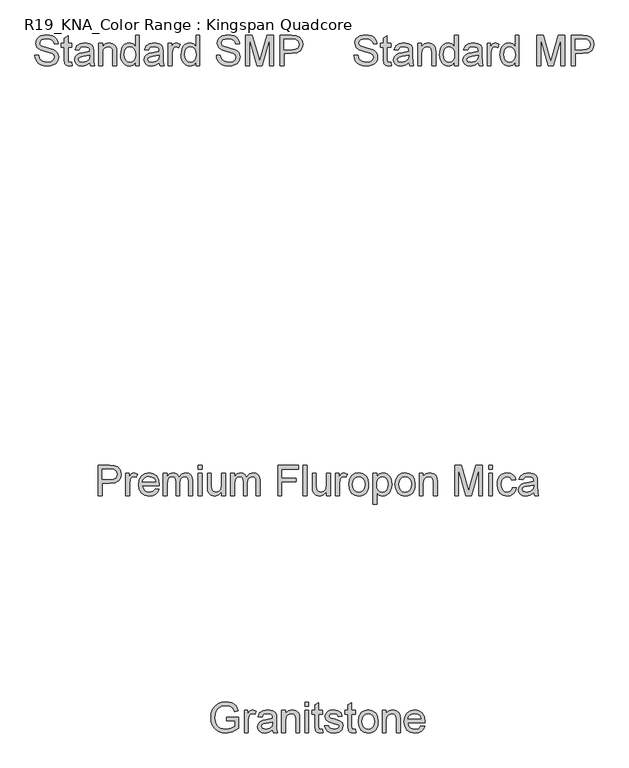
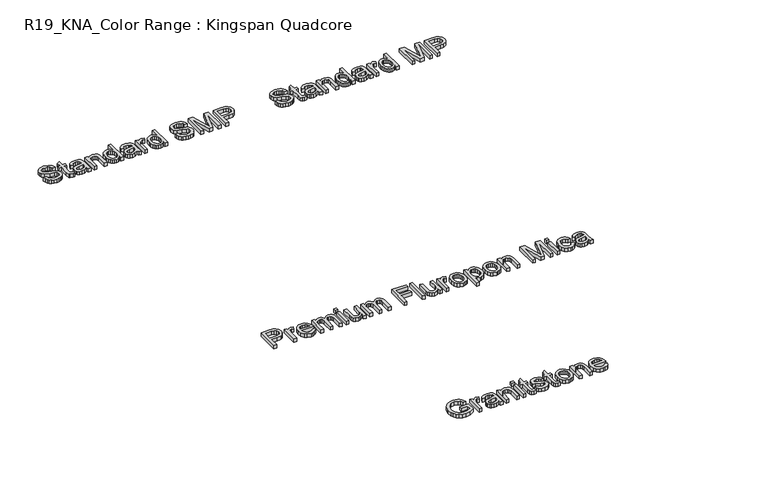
"""IFC4 building model written with IfcOpenShell, lengths in millimetres: proxy geometry, R19_KNA_Color Range : Kingspan Quadcore."""

from ifc_helpers import new_model, si_unit, origin, origin_with_axes, place, context, project, spatial, polyline, outline, extrude, source, transform, mapped, element, save


def r19_kna_color_range_kingspan_quadcore_c5814d20(model_context):
    return source(origin(), model_context, "Body", "SweptSolid", [
        extrude(outline(polyline([(181.9710286, 426.7977849), (200.8065868, 426.7977849), (206.8766397, 407.9438327), (221.7022841, 396.024456), (244.2902386, 391.4811134), (263.9719254, 394.92081), (276.6822483, 404.3753773), (280.8577089, 417.0121238), (277.730712, 428.7659536), (264.9284186, 437.31921), (237.5028158, 444.511303), (207.9802857, 453.8003234), (191.9590248, 467.8166274), (186.6799182, 486.5418209), (188.3123945, 497.5736823), (193.2098236, 507.8605826), (201.2434467, 516.5793858), (212.284505, 522.9069562), (240.2067485, 528.03891), (270.0051901, 522.6678329), (281.427926, 516.0367599), (289.8708178, 506.8856953), (295.2143038, 495.7848561), (297.3388223, 483.3044594), (278.5032642, 483.3044594), (275.0451734, 494.5432543), (267.8346863, 502.6550523), (256.5683002, 507.566277), (240.9425125, 509.2033518), (224.9488427, 507.5846711), (213.9767622, 502.7286287), (207.6307978, 495.582521), (205.5154763, 487.0936439), (207.0145955, 479.8555657), (211.5119529, 474.0338331), (242.2668877, 463.512408), (275.5969964, 454.0578408), (286.3345521, 447.2244327), (293.8255493, 438.790738), (298.2263376, 428.848727), (299.6932671, 417.4903704), (298.0056084, 405.879095), (292.9426325, 394.9575982), (284.7112728, 385.5582133), (273.5184631, 378.5132731), (260.0585806, 374.1124847), (245.0260026, 372.6455552), (226.572122, 374.2274478), (211.3831942, 378.9731255), (199.284475, 386.9009825), (190.1012207, 398.0294129), (184.2059118, 411.5858644), (181.9710286, 426.7977849)])), origin_with_axes(), (0.0, 0.0, 1.0), 25.0),
        extrude(outline(polyline([(365.6177206, 390.7085612), (367.9721654, 374.448177), (353.882285, 372.6455552), (338.1001474, 375.7725522), (330.2274727, 383.9763207), (327.9466043, 405.3502646), (327.9466043, 466.823346), (313.8199357, 466.823346), (313.8199357, 485.6589041), (327.9466043, 485.6589041), (327.9466043, 512.551078), (346.7821625, 523.6243261), (346.7821625, 485.6589041), (365.6177206, 485.6589041), (365.6177206, 466.823346), (346.7821625, 466.823346), (346.7821625, 405.9020876), (347.7754439, 396.1900029), (350.9944113, 392.7503063), (357.4139521, 391.4811134), (365.6177206, 390.7085612)])), origin_with_axes(), (0.0, 0.0, 1.0), 25.0),
        extrude(outline(polyline([(455.0866219, 389.1266686), (436.8212808, 376.3611634), (416.6429534, 372.6455552), (400.9022025, 374.8804384), (389.290927, 381.5850877), (382.1310237, 391.7662219), (379.7443892, 404.4305596), (383.3496328, 419.3297804), (392.8225942, 430.1455111), (406.0111637, 436.3259286), (422.3083361, 439.15862), (454.9762573, 445.6333431), (455.0866219, 449.8271978), (453.7898378, 458.2333014), (449.8994857, 463.7331372), (441.1990765, 467.8166274), (429.0773648, 469.1777908), (410.0210775, 465.5541531), (400.9343922, 452.6966774), (382.098834, 455.0511222), (390.2474202, 473.4452219), (406.6549572, 484.2241644), (431.505386, 488.0133489), (454.3324638, 484.6656228), (467.2267277, 476.2595192), (473.002475, 463.4756198), (473.92218, 446.9945065), (473.92218, 423.5604234), (474.8786732, 390.8373199), (478.6310696, 375.0), (459.7955114, 375.0), (455.0866219, 389.1266686)]), holes=[polyline([(455.0866219, 426.7977849), (424.6995691, 421.0220376), (408.4943672, 417.968617), (401.1551214, 413.0022101), (398.5799474, 405.7549348), (404.1901478, 395.5646035), (420.6528671, 391.4811134), (439.7091545, 395.9876678), (451.9964131, 406.895369), (454.9762573, 421.463496), (455.0866219, 426.7977849)])]), origin_with_axes(), (0.0, 0.0, 1.0), 25.0),
        extrude(outline(polyline([(499.8210725, 375.0), (499.8210725, 485.6589041), (518.6566306, 485.6589041), (518.6566306, 470.2078604), (533.0592107, 483.5619768), (552.7225034, 488.0133489), (570.5095978, 484.4264995), (582.6497037, 475.0087204), (588.2966923, 461.1579633), (589.2899737, 442.9478045), (589.2899737, 375.0), (570.4544155, 375.0), (570.4544155, 440.4094187), (568.2839118, 457.0744731), (560.6135722, 465.8852469), (547.68252, 469.1777908), (536.6506587, 467.3291837), (527.2466752, 461.7833627), (520.8041418, 451.0687996), (518.6566306, 433.7139664), (518.6566306, 375.0), (499.8210725, 375.0)])), origin_with_axes(), (0.0, 0.0, 1.0), 25.0),
        extrude(outline(polyline([(683.4677645, 375.0), (683.4677645, 392.7687004), (671.0057619, 377.6763415), (653.7796875, 372.6455552), (641.6027934, 374.4665711), (630.455969, 379.9296187), (621.0197958, 388.6530205), (613.9748556, 400.255099), (609.5878628, 414.2668045), (608.1255319, 430.2190875), (613.5150031, 460.2014701), (620.2472436, 472.0932556), (629.6650227, 480.83965), (641.0555689, 486.2199242), (653.7061111, 488.0133489), (671.0701412, 482.8813951), (683.4677645, 469.5456728), (683.4677645, 525.6844652), (702.3033226, 525.6844652), (702.3033226, 375.0), (683.4677645, 375.0)]), holes=[polyline([(626.96109, 430.2926639), (629.0856085, 413.255129), (635.4591641, 401.1380158), (644.7205933, 393.895339), (655.5087328, 391.4811134), (666.2922738, 393.7849744), (675.3191783, 400.6965574), (681.4306179, 412.344621), (683.4677645, 428.8579241), (681.3938297, 446.911733), (675.1720255, 459.4289179), (665.9151948, 466.7405725), (654.7361806, 469.1777908), (643.8376765, 466.8371416), (634.9073411, 459.815194), (628.9476528, 447.7532631), (626.96109, 430.2926639)])]), origin_with_axes(), (0.0, 0.0, 1.0), 25.0),
        extrude(outline(polyline([(801.1900029, 389.1266686), (782.9246619, 376.3611634), (762.7463344, 372.6455552), (747.0055836, 374.8804384), (735.3943081, 381.5850877), (728.2344048, 391.7662219), (725.8477703, 404.4305596), (729.4530139, 419.3297804), (738.9259752, 430.1455111), (752.1145448, 436.3259286), (768.4117172, 439.15862), (801.0796383, 445.6333431), (801.1900029, 449.8271978), (799.8932189, 458.2333014), (796.0028668, 463.7331372), (787.3024576, 467.8166274), (775.1807459, 469.1777908), (756.1244585, 465.5541531), (747.0377732, 452.6966774), (728.2022151, 455.0511222), (736.3508013, 473.4452219), (752.7583383, 484.2241644), (777.608767, 488.0133489), (800.4358448, 484.6656228), (813.3301088, 476.2595192), (819.1058561, 463.4756198), (820.0255611, 446.9945065), (820.0255611, 423.5604234), (820.9820543, 390.8373199), (824.7344506, 375.0), (805.8988925, 375.0), (801.1900029, 389.1266686)]), holes=[polyline([(801.1900029, 426.7977849), (770.8029501, 421.0220376), (754.5977482, 417.968617), (747.2585024, 413.0022101), (744.6833285, 405.7549348), (750.2935289, 395.5646035), (766.7562482, 391.4811134), (785.8125355, 395.9876678), (798.0997942, 406.895369), (801.0796383, 421.463496), (801.1900029, 426.7977849)])]), origin_with_axes(), (0.0, 0.0, 1.0), 25.0),
        extrude(outline(polyline([(845.9244535, 375.0), (845.9244535, 485.6589041), (862.4055669, 485.6589041), (862.4055669, 469.2881554), (874.1042144, 484.3713172), (885.8764382, 488.0133489), (904.7855728, 482.2008134), (898.4947906, 465.3150298), (885.2510388, 469.1777908), (874.6008551, 465.4621826), (867.8134322, 455.1614867), (864.7600117, 433.1621434), (864.7600117, 375.0), (845.9244535, 375.0)])), origin_with_axes(), (0.0, 0.0, 1.0), 25.0),
        extrude(outline(polyline([(984.8366949, 375.0), (984.8366949, 392.7687004), (972.3746923, 377.6763415), (955.1486179, 372.6455552), (942.9717239, 374.4665711), (931.8248994, 379.9296187), (922.3887262, 388.6530205), (915.343786, 400.255099), (910.9567932, 414.2668045), (909.4944623, 430.2190875), (914.8839335, 460.2014701), (921.616174, 472.0932556), (931.0339531, 480.83965), (942.4244994, 486.2199242), (955.0750415, 488.0133489), (972.4390717, 482.8813951), (984.8366949, 469.5456728), (984.8366949, 525.6844652), (1003.6722531, 525.6844652), (1003.6722531, 375.0), (984.8366949, 375.0)]), holes=[polyline([(928.3300205, 430.2926639), (930.454539, 413.255129), (936.8280945, 401.1380158), (946.0895238, 393.895339), (956.8776633, 391.4811134), (967.6612043, 393.7849744), (976.6881087, 400.6965574), (982.7995484, 412.344621), (984.8366949, 428.8579241), (982.7627602, 446.911733), (976.5409559, 459.4289179), (967.2841252, 466.7405725), (956.1051111, 469.1777908), (945.206607, 466.8371416), (936.2762716, 459.815194), (930.3165832, 447.7532631), (928.3300205, 430.2926639)])]), origin_with_axes(), (0.0, 0.0, 1.0), 25.0),
        extrude(outline(polyline([(1093.1411543, 375.0), (1093.1411543, 525.6844652), (1125.5515581, 525.6844652), (1156.3800693, 419.4769332), (1162.597275, 397.2936489), (1169.3295155, 421.3163432), (1199.6429919, 525.6844652), (1232.0533957, 525.6844652), (1232.0533957, 375.0), (1213.2178375, 375.0), (1213.2178375, 506.8489071), (1175.3627802, 375.0), (1149.8317698, 375.0), (1111.9767124, 506.8489071), (1111.9767124, 375.0), (1093.1411543, 375.0)])), origin_with_axes(), (0.0, 0.0, 1.0), 25.0),
        extrude(outline(polyline([(1265.0156224, 375.0), (1265.0156224, 525.6844652), (1320.8601093, 525.6844652), (1343.3744874, 524.2497254), (1361.6766167, 517.2047852), (1373.540811, 502.6366582), (1378.0289714, 482.0904488), (1374.9985434, 464.3309455), (1365.9072596, 449.5328922), (1348.9065129, 439.5448961), (1322.1476963, 436.215564), (1283.8511806, 436.215564), (1283.8511806, 375.0), (1265.0156224, 375.0)]), holes=[polyline([(1283.8511806, 455.0511222), (1323.2513423, 455.0511222), (1339.9531849, 456.7801675), (1350.9896447, 461.9673037), (1357.1424711, 470.2906338), (1359.1934132, 481.4282612), (1354.355765, 497.0264578), (1341.645442, 505.5613201), (1322.8098839, 506.8489071), (1283.8511806, 506.8489071), (1283.8511806, 455.0511222)])]), origin_with_axes(), (0.0, 0.0, 1.0), 25.0),
        extrude(outline(polyline([(-453.2306181, -2886.1388808), (-453.2306181, -2867.3033226), (-392.0150541, -2867.3033226), (-392.0150541, -2923.6260561), (-422.23656, -2941.3947564), (-454.1871112, -2947.3544448), (-475.3173333, -2944.9862044), (-494.4150074, -2937.8814834), (-510.2799185, -2926.288602), (-521.7118515, -2910.4558807), (-528.6234344, -2891.4639727), (-530.9272954, -2870.3935314), (-528.6326315, -2849.1713388), (-521.7486397, -2829.4298712), (-510.5604285, -2812.8705829), (-495.3531065, -2801.1949281), (-476.830248, -2794.2695495), (-455.6954274, -2791.96109), (-426.2280796, -2797.313773), (-414.4788484, -2803.7149198), (-405.5715056, -2812.2129938), (-394.1855578, -2837.136999), (-411.549588, -2842.0298296), (-420.1396326, -2824.6106171), (-434.8181242, -2814.5674386), (-455.989733, -2810.7966482), (-480.1043978, -2814.8617442), (-496.5119348, -2825.5303221), (-506.2056254, -2840.0432668), (-512.0917373, -2869.6209792), (-510.3213052, -2887.6334014), (-505.0100089, -2902.4544473), (-496.3187967, -2913.9783508), (-484.4086171, -2922.0993458), (-470.4704881, -2926.9140014), (-455.6954274, -2928.5188866), (-429.9252937, -2923.6812384), (-410.8506122, -2913.3621484), (-410.8506122, -2886.1388808), (-453.2306181, -2886.1388808)])), origin_with_axes(), (0.0, 0.0, 1.0), 25.0),
        extrude(outline(polyline([(-363.7617168, -2945.0), (-363.7617168, -2834.3410959), (-347.2806034, -2834.3410959), (-347.2806034, -2850.7118446), (-335.581956, -2835.6286828), (-323.8097322, -2831.9866511), (-304.9005976, -2837.7991866), (-311.1913797, -2854.6849702), (-324.4351315, -2850.8222092), (-335.0853153, -2854.5378174), (-341.8727381, -2864.8385133), (-344.9261587, -2886.8378566), (-344.9261587, -2945.0), (-363.7617168, -2945.0)])), origin_with_axes(), (0.0, 0.0, 1.0), 25.0),
        extrude(outline(polyline([(-222.4950307, -2930.8733314), (-240.7603717, -2943.6388366), (-260.9386992, -2947.3544448), (-276.67945, -2945.1195616), (-288.2907255, -2938.4149123), (-295.4506289, -2928.2337781), (-297.8372633, -2915.5694404), (-294.2320197, -2900.6702196), (-284.7590584, -2889.8544889), (-271.5704888, -2883.6740714), (-255.2733165, -2880.84138), (-222.6053953, -2874.3666569), (-222.4950307, -2870.1728022), (-223.7918147, -2861.7666986), (-227.6821668, -2856.2668628), (-236.382576, -2852.1833726), (-248.5042877, -2850.8222092), (-267.5605751, -2854.4458469), (-276.6472604, -2867.3033226), (-295.4828185, -2864.9488778), (-287.3342323, -2846.5547781), (-270.9266953, -2835.7758356), (-246.0762666, -2831.9866511), (-223.2491888, -2835.3343772), (-210.3549248, -2843.7404808), (-204.5791775, -2856.5243802), (-203.6594725, -2873.0054935), (-203.6594725, -2896.4395766), (-202.7029793, -2929.1626801), (-198.950583, -2945.0), (-217.7861411, -2945.0), (-222.4950307, -2930.8733314)]), holes=[polyline([(-222.4950307, -2893.2022151), (-252.8820835, -2898.9779624), (-269.0872854, -2902.031383), (-276.4265312, -2906.9977899), (-279.0017051, -2914.2450652), (-273.3915047, -2924.4353965), (-256.9287854, -2928.5188866), (-237.8724981, -2924.0123322), (-225.5852394, -2913.104631), (-222.6053953, -2898.536504), (-222.4950307, -2893.2022151)])]), origin_with_axes(), (0.0, 0.0, 1.0), 25.0),
        extrude(outline(polyline([(-177.7605801, -2945.0), (-177.7605801, -2834.3410959), (-158.9250219, -2834.3410959), (-158.9250219, -2849.7921396), (-144.5224418, -2836.4380232), (-124.8591492, -2831.9866511), (-107.0720547, -2835.5735005), (-94.9319489, -2844.9912796), (-89.2849602, -2858.8420367), (-88.2916788, -2877.0521955), (-88.2916788, -2945.0), (-107.127237, -2945.0), (-107.127237, -2879.5905813), (-109.2977408, -2862.9255269), (-116.9680804, -2854.1147531), (-129.8991325, -2850.8222092), (-140.9309938, -2852.6708163), (-150.3349773, -2858.2166373), (-156.7775108, -2868.9312004), (-158.9250219, -2886.2860336), (-158.9250219, -2945.0), (-177.7605801, -2945.0)])), origin_with_axes(), (0.0, 0.0, 1.0), 25.0),
        extrude(outline(polyline([(-62.3927864, -2945.0), (-62.3927864, -2834.3410959), (-43.5572282, -2834.3410959), (-43.5572282, -2945.0), (-62.3927864, -2945.0)])), origin_with_axes(), (0.0, 0.0, 1.0), 25.0),
        extrude(outline(polyline([(-62.3927864, -2813.1510929), (-62.3927864, -2794.3155348), (-43.5572282, -2794.3155348), (-43.5572282, -2813.1510929), (-62.3927864, -2813.1510929)])), origin_with_axes(), (0.0, 0.0, 1.0), 25.0),
        extrude(outline(polyline([(24.7216701, -2929.2914388), (27.0761148, -2945.551823), (12.9862344, -2947.3544448), (-2.7959032, -2944.2274478), (-10.6685779, -2936.0236793), (-12.9494462, -2914.6497354), (-12.9494462, -2853.176654), (-27.0761148, -2853.176654), (-27.0761148, -2834.3410959), (-12.9494462, -2834.3410959), (-12.9494462, -2807.448922), (5.8861119, -2796.3756739), (5.8861119, -2834.3410959), (24.7216701, -2834.3410959), (24.7216701, -2853.176654), (5.8861119, -2853.176654), (5.8861119, -2914.0979124), (6.8793933, -2923.8099971), (10.0983608, -2927.2496937), (16.5179016, -2928.5188866), (24.7216701, -2929.2914388)])), origin_with_axes(), (0.0, 0.0, 1.0), 25.0),
        extrude(outline(polyline([(36.4938939, -2912.0377732), (55.3294521, -2909.6833285), (58.3000992, -2917.7399442), (64.0482554, -2923.6628443), (84.0242477, -2928.5188866), (103.2276878, -2924.0675145), (109.4816818, -2913.6196658), (107.9089862, -2908.8188058), (103.1908996, -2905.1583799), (83.8035185, -2899.7873028), (55.4398167, -2890.5718588), (43.0605875, -2879.8113105), (38.8483387, -2864.6177841), (42.232853, -2850.5830859), (51.4666911, -2839.8593258), (63.4412501, -2834.2859136), (79.646452, -2831.9866511), (102.5655003, -2835.6838651), (117.1336273, -2845.6902554), (123.6083504, -2862.5944331), (104.7727922, -2864.9488778), (97.6910638, -2854.5562115), (81.1179799, -2850.8222092), (63.0917622, -2854.3906646), (57.6838968, -2862.7047977), (59.927977, -2868.1862394), (66.9545231, -2872.343306), (83.1781191, -2876.3532197), (110.824451, -2885.2191758), (123.6635327, -2895.2623543), (128.3172399, -2911.633103), (122.8541923, -2929.6593208), (107.0904488, -2942.7375257), (83.7667303, -2947.3544448), (64.7748223, -2945.1287587), (50.9148681, -2938.4517005), (41.662636, -2927.3968465), (36.4938939, -2912.0377732)])), origin_with_axes(), (0.0, 0.0, 1.0), 25.0),
        extrude(outline(polyline([(189.5328039, -2929.2914388), (191.8872487, -2945.551823), (177.7973683, -2947.3544448), (162.0152307, -2944.2274478), (154.142556, -2936.0236793), (151.8616876, -2914.6497354), (151.8616876, -2853.176654), (137.735019, -2853.176654), (137.735019, -2834.3410959), (151.8616876, -2834.3410959), (151.8616876, -2807.448922), (170.6972458, -2796.3756739), (170.6972458, -2834.3410959), (189.5328039, -2834.3410959), (189.5328039, -2853.176654), (170.6972458, -2853.176654), (170.6972458, -2914.0979124), (171.6905271, -2923.8099971), (174.9094946, -2927.2496937), (181.3290354, -2928.5188866), (189.5328039, -2929.2914388)])), origin_with_axes(), (0.0, 0.0, 1.0), 25.0),
        extrude(outline(polyline([(203.6594725, -2889.6705479), (207.7337656, -2862.9899062), (219.9566449, -2844.2371215), (235.0582008, -2835.0492687), (253.1396009, -2831.9866511), (272.9270537, -2835.7160548), (288.7321839, -2846.904266), (299.0926606, -2864.6683678), (302.5461528, -2888.1254435), (301.0194426, -2907.1541397), (296.4393117, -2921.6394933), (288.9391175, -2932.4874136), (278.6522172, -2940.6038102), (266.4339365, -2945.6667861), (253.1396009, -2947.3544448), (233.1130248, -2943.6388366), (217.3262887, -2932.4920122), (207.0761766, -2914.3554298), (203.6594725, -2889.6705479)]), holes=[polyline([(222.4950307, -2889.6337597), (224.6747315, -2906.6804917), (231.213834, -2918.825196), (241.0546773, -2926.095464), (253.1396009, -2928.5188866), (265.1693421, -2926.0816684), (274.9917914, -2918.7700137), (281.5308939, -2906.464361), (283.7105947, -2889.0451485), (281.5170983, -2872.4950573), (274.9366091, -2860.5158998), (265.1003642, -2853.2456319), (253.1396009, -2850.8222092), (241.0546773, -2853.2364348), (231.213834, -2860.4791116), (224.6747315, -2872.5962248), (222.4950307, -2889.6337597)])]), origin_with_axes(), (0.0, 0.0, 1.0), 25.0),
        extrude(outline(polyline([(323.7361558, -2945.0), (323.7361558, -2834.3410959), (342.5717139, -2834.3410959), (342.5717139, -2849.7921396), (356.974294, -2836.4380232), (376.6375867, -2831.9866511), (394.4246811, -2835.5735005), (406.564787, -2844.9912796), (412.2117756, -2858.8420367), (413.205057, -2877.0521955), (413.205057, -2945.0), (394.3694988, -2945.0), (394.3694988, -2879.5905813), (392.1989951, -2862.9255269), (384.5286555, -2854.1147531), (371.5976033, -2850.8222092), (360.565742, -2852.6708163), (351.1617585, -2858.2166373), (344.7192251, -2868.9312004), (342.5717139, -2886.2860336), (342.5717139, -2945.0), (323.7361558, -2945.0)])), origin_with_axes(), (0.0, 0.0, 1.0), 25.0),
        extrude(outline(polyline([(516.5798976, -2912.0377732), (535.0475738, -2914.392218), (528.3935082, -2928.3073545), (517.7755141, -2938.7092179), (503.4327148, -2945.193138), (485.6042336, -2947.3544448), (463.5037228, -2943.625041), (446.4983775, -2932.4368299), (435.6550557, -2914.5163782), (432.0406151, -2890.5902529), (435.6918439, -2865.8593858), (446.6455303, -2847.3641185), (463.4209493, -2835.8310179), (484.5373758, -2831.9866511), (504.9962133, -2835.8218209), (521.3439695, -2847.3273303), (532.0631311, -2865.7858094), (535.636185, -2890.4798883), (535.5258204, -2895.5566598), (450.8761733, -2895.5566598), (454.1365275, -2909.6557373), (461.710298, -2920.0208125), (472.6409918, -2926.3943681), (485.9721156, -2928.5188866), (504.4397918, -2924.5825493), (516.5798976, -2912.0377732)]), holes=[polyline([(450.8761733, -2876.7211017), (516.8006268, -2876.7211017), (514.253044, -2866.7698937), (509.2590459, -2859.6513771), (498.2777684, -2853.0295012), (484.4637994, -2850.8222092), (471.7672721, -2852.5834443), (461.2688397, -2857.8671494), (453.9709806, -2866.1031076), (450.8761733, -2876.7211017)])]), origin_with_axes(), (0.0, 0.0, 1.0), 25.0),
        extrude(outline(polyline([(-1091.2851505, -1765.0), (-1091.2851505, -1614.3155348), (-1035.4406636, -1614.3155348), (-1012.9262855, -1615.7502746), (-994.6241563, -1622.7952148), (-982.7599619, -1637.3633418), (-978.2718016, -1657.9095512), (-981.3022295, -1675.6690545), (-990.3935133, -1690.4671078), (-1007.39426, -1700.4551039), (-1034.1530766, -1703.784436), (-1072.4495923, -1703.784436), (-1072.4495923, -1765.0), (-1091.2851505, -1765.0)]), holes=[polyline([(-1072.4495923, -1684.9488778), (-1033.0494307, -1684.9488778), (-1016.3475881, -1683.2198325), (-1005.3111282, -1678.0326963), (-999.1583019, -1669.7093662), (-997.1073597, -1658.5717388), (-1001.945008, -1642.9735422), (-1014.6553309, -1634.4386799), (-1033.4908891, -1633.1510929), (-1072.4495923, -1633.1510929), (-1072.4495923, -1684.9488778)])]), origin_with_axes(), (0.0, 0.0, 1.0), 25.0),
        extrude(outline(polyline([(-954.7273539, -1765.0), (-954.7273539, -1654.3410959), (-938.2462405, -1654.3410959), (-938.2462405, -1670.7118446), (-926.5475931, -1655.6286828), (-914.7753692, -1651.9866511), (-895.8662347, -1657.7991866), (-902.1570168, -1674.6849702), (-915.4007686, -1670.8222092), (-926.0509524, -1674.5378174), (-932.8383752, -1684.8385133), (-935.8917957, -1706.8378566), (-935.8917957, -1765.0), (-954.7273539, -1765.0)])), origin_with_axes(), (0.0, 0.0, 1.0), 25.0),
        extrude(outline(polyline([(-806.6180626, -1732.0377732), (-788.1503865, -1734.392218), (-794.8044521, -1748.3073545), (-805.4224461, -1758.7092179), (-819.7652454, -1765.193138), (-837.5937266, -1767.3544448), (-859.6942375, -1763.625041), (-876.6995827, -1752.4368299), (-887.5429045, -1734.5163782), (-891.1573451, -1710.5902529), (-887.5061163, -1685.8593858), (-876.5524299, -1667.3641185), (-859.7770109, -1655.8310179), (-838.6605844, -1651.9866511), (-818.2017469, -1655.8218209), (-801.8539908, -1667.3273303), (-791.1348292, -1685.7858094), (-787.5617753, -1710.4798883), (-787.6721399, -1715.5566598), (-872.321787, -1715.5566598), (-869.0614328, -1729.6557373), (-861.4876622, -1740.0208125), (-850.5569684, -1746.3943681), (-837.2258446, -1748.5188866), (-818.7581685, -1744.5825493), (-806.6180626, -1732.0377732)]), holes=[polyline([(-872.321787, -1696.7211017), (-806.3973334, -1696.7211017), (-808.9449162, -1686.7698937), (-813.9389143, -1679.6513771), (-824.9201919, -1673.0295012), (-838.7341608, -1670.8222092), (-851.4306882, -1672.5834443), (-861.9291206, -1677.8671494), (-869.2269797, -1686.1031076), (-872.321787, -1696.7211017)])]), origin_with_axes(), (0.0, 0.0, 1.0), 25.0),
        extrude(outline(polyline([(-768.7262171, -1765.0), (-768.7262171, -1654.3410959), (-749.890659, -1654.3410959), (-749.890659, -1672.5512546), (-736.9412127, -1657.6336397), (-718.5103248, -1651.9866511), (-708.034885, -1653.4259894), (-699.6379784, -1657.7440043), (-689.2637062, -1673.8756298), (-674.5668205, -1657.4588958), (-656.0071738, -1651.9866511), (-641.8483155, -1654.2629209), (-631.3774742, -1661.0917305), (-624.9073496, -1672.6570207), (-622.7506414, -1689.1427326), (-622.7506414, -1765.0), (-641.5861996, -1765.0), (-641.5861996, -1697.2361365), (-643.3336391, -1681.5091812), (-649.6612094, -1673.7652652), (-660.4217577, -1670.8222092), (-670.6258846, -1672.7076045), (-678.9446162, -1678.3637901), (-684.4766417, -1688.1770424), (-686.3206502, -1702.5336372), (-686.3206502, -1765.0), (-705.1562084, -1765.0), (-705.1562084, -1695.1392091), (-709.51561, -1676.8922622), (-715.2683647, -1672.3397225), (-723.8078255, -1670.8222092), (-737.7505531, -1674.8689112), (-747.0211794, -1686.7147114), (-749.890659, -1709.1923013), (-749.890659, -1765.0), (-768.7262171, -1765.0)])), origin_with_axes(), (0.0, 0.0, 1.0), 25.0),
        extrude(outline(polyline([(-594.4973042, -1765.0), (-594.4973042, -1654.3410959), (-575.6617461, -1654.3410959), (-575.6617461, -1765.0), (-594.4973042, -1765.0)])), origin_with_axes(), (0.0, 0.0, 1.0), 25.0),
        extrude(outline(polyline([(-594.4973042, -1633.1510929), (-594.4973042, -1614.3155348), (-575.6617461, -1614.3155348), (-575.6617461, -1633.1510929), (-594.4973042, -1633.1510929)])), origin_with_axes(), (0.0, 0.0, 1.0), 25.0),
        extrude(outline(polyline([(-476.7750657, -1765.0), (-476.7750657, -1745.9805008), (-491.5271338, -1762.0109588), (-510.7673621, -1767.3544448), (-528.4808802, -1763.6020484), (-540.6945624, -1754.1842693), (-546.3047628, -1740.3151181), (-547.4084088, -1722.8039352), (-547.4084088, -1654.3410959), (-528.5728507, -1654.3410959), (-528.5728507, -1713.9379791), (-527.4324165, -1733.1414192), (-519.9828061, -1744.4170024), (-505.948108, -1748.5188866), (-490.2211527, -1744.3250319), (-479.8284863, -1732.9022959), (-476.7750657, -1711.9146281), (-476.7750657, -1654.3410959), (-457.9395076, -1654.3410959), (-457.9395076, -1765.0), (-476.7750657, -1765.0)])), origin_with_axes(), (0.0, 0.0, 1.0), 25.0),
        extrude(outline(polyline([(-432.0406151, -1765.0), (-432.0406151, -1654.3410959), (-413.205057, -1654.3410959), (-413.205057, -1672.5512546), (-400.2556108, -1657.6336397), (-381.8247228, -1651.9866511), (-371.349283, -1653.4259894), (-362.9523764, -1657.7440043), (-352.5781042, -1673.8756298), (-337.8812185, -1657.4588958), (-319.3215718, -1651.9866511), (-305.1627135, -1654.2629209), (-294.6918722, -1661.0917305), (-288.2217476, -1672.6570207), (-286.0650394, -1689.1427326), (-286.0650394, -1765.0), (-304.9005976, -1765.0), (-304.9005976, -1697.2361365), (-306.6480371, -1681.5091812), (-312.9756074, -1673.7652652), (-323.7361558, -1670.8222092), (-333.9402826, -1672.7076045), (-342.2590142, -1678.3637901), (-347.7910397, -1688.1770424), (-349.6350482, -1702.5336372), (-349.6350482, -1765.0), (-368.4706064, -1765.0), (-368.4706064, -1695.1392091), (-372.830008, -1676.8922622), (-378.5827627, -1672.3397225), (-387.1222235, -1670.8222092), (-401.0649511, -1674.8689112), (-410.3355774, -1686.7147114), (-413.205057, -1709.1923013), (-413.205057, -1765.0), (-432.0406151, -1765.0)])), origin_with_axes(), (0.0, 0.0, 1.0), 25.0),
        extrude(outline(polyline([(-196.5961382, -1765.0), (-196.5961382, -1614.3155348), (-95.3550131, -1614.3155348), (-95.3550131, -1633.1510929), (-177.7605801, -1633.1510929), (-177.7605801, -1677.8855435), (-107.127237, -1677.8855435), (-107.127237, -1696.7211017), (-177.7605801, -1696.7211017), (-177.7605801, -1765.0), (-196.5961382, -1765.0)])), origin_with_axes(), (0.0, 0.0, 1.0), 25.0),
        extrude(outline(polyline([(-71.8105655, -1765.0), (-71.8105655, -1614.3155348), (-52.9750073, -1614.3155348), (-52.9750073, -1765.0), (-71.8105655, -1765.0)])), origin_with_axes(), (0.0, 0.0, 1.0), 25.0),
        extrude(outline(polyline([(45.911673, -1765.0), (45.911673, -1745.9805008), (31.159605, -1762.0109588), (11.9193766, -1767.3544448), (-5.7941414, -1763.6020484), (-18.0078237, -1754.1842693), (-23.6180241, -1740.3151181), (-24.7216701, -1722.8039352), (-24.7216701, -1654.3410959), (-5.8861119, -1654.3410959), (-5.8861119, -1713.9379791), (-4.7456777, -1733.1414192), (2.7039327, -1744.4170024), (16.7386308, -1748.5188866), (32.4655861, -1744.3250319), (42.8582524, -1732.9022959), (45.911673, -1711.9146281), (45.911673, -1654.3410959), (64.7472312, -1654.3410959), (64.7472312, -1765.0), (45.911673, -1765.0)])), origin_with_axes(), (0.0, 0.0, 1.0), 25.0),
        extrude(outline(polyline([(90.6461236, -1765.0), (90.6461236, -1654.3410959), (107.127237, -1654.3410959), (107.127237, -1670.7118446), (118.8258844, -1655.6286828), (130.5981083, -1651.9866511), (149.5072428, -1657.7991866), (143.2164607, -1674.6849702), (129.9727089, -1670.8222092), (119.3225251, -1674.5378174), (112.5351023, -1684.8385133), (109.4816818, -1706.8378566), (109.4816818, -1765.0), (90.6461236, -1765.0)])), origin_with_axes(), (0.0, 0.0, 1.0), 25.0),
        extrude(outline(polyline([(156.5705771, -1709.6705479), (160.6448702, -1682.9899062), (172.8677495, -1664.2371215), (187.9693054, -1655.0492687), (206.0507055, -1651.9866511), (225.8381583, -1655.7160548), (241.6432885, -1666.904266), (252.0037652, -1684.6683678), (255.4572575, -1708.1254435), (253.9305472, -1727.1541397), (249.3504163, -1741.6394933), (241.8502222, -1752.4874136), (231.5633219, -1760.6038102), (219.3450411, -1765.6667861), (206.0507055, -1767.3544448), (186.0241294, -1763.6388366), (170.2373933, -1752.4920122), (159.9872812, -1734.3554298), (156.5705771, -1709.6705479)]), holes=[polyline([(175.4061353, -1709.6337597), (177.5858361, -1726.6804917), (184.1249386, -1738.825196), (193.965782, -1746.095464), (206.0507055, -1748.5188866), (218.0804467, -1746.0816684), (227.902896, -1738.7700137), (234.4419985, -1726.464361), (236.6216993, -1709.0451485), (234.4282029, -1692.4950573), (227.8477137, -1680.5158998), (218.0114689, -1673.2456319), (206.0507055, -1670.8222092), (193.965782, -1673.2364348), (184.1249386, -1680.4791116), (177.5858361, -1692.5962248), (175.4061353, -1709.6337597)])]), origin_with_axes(), (0.0, 0.0, 1.0), 25.0),
        extrude(outline(polyline([(276.6472604, -1807.3800058), (276.6472604, -1654.3410959), (295.4828185, -1654.3410959), (295.4828185, -1672.808772), (308.5058412, -1657.1921813), (326.0906005, -1651.9866511), (338.8285146, -1653.807667), (349.966142, -1659.2707146), (359.0344332, -1668.0447002), (365.5643386, -1679.7985299), (370.8250511, -1708.8244193), (369.3397276, -1724.9330522), (364.8837569, -1739.3402308), (357.5996934, -1751.3147898), (347.6300913, -1760.1255636), (336.0188159, -1765.5472245), (323.8097322, -1767.3544448), (307.4205893, -1762.5167965), (295.4828185, -1750.2847202), (295.4828185, -1807.3800058), (276.6472604, -1807.3800058)]), holes=[polyline([(295.4828185, -1710.5534647), (297.5199651, -1727.4392483), (303.6314047, -1739.2482603), (312.6491121, -1746.20123), (323.405062, -1748.5188866), (334.3357557, -1746.1184566), (343.5833894, -1738.9171665), (349.8879671, -1726.6758932), (351.989493, -1709.1555131), (349.9385509, -1692.3617001), (343.7857245, -1680.3871411), (334.7818127, -1673.2134422), (324.1776141, -1670.8222092), (313.5320289, -1673.3651935), (304.1832277, -1680.9941464), (297.6579208, -1693.4699446), (295.4828185, -1710.5534647)])]), origin_with_axes(), (0.0, 0.0, 1.0), 25.0),
        extrude(outline(polyline([(387.3061645, -1709.6705479), (391.3804576, -1682.9899062), (403.6033369, -1664.2371215), (418.7048928, -1655.0492687), (436.7862929, -1651.9866511), (456.5737457, -1655.7160548), (472.3788759, -1666.904266), (482.7393526, -1684.6683678), (486.1928448, -1708.1254435), (484.6661345, -1727.1541397), (480.0860037, -1741.6394933), (472.5858095, -1752.4874136), (462.2989092, -1760.6038102), (450.0806285, -1765.6667861), (436.7862929, -1767.3544448), (416.7597168, -1763.6388366), (400.9729806, -1752.4920122), (390.7228686, -1734.3554298), (387.3061645, -1709.6705479)]), holes=[polyline([(406.1417227, -1709.6337597), (408.3214235, -1726.6804917), (414.860526, -1738.825196), (424.7013693, -1746.095464), (436.7862929, -1748.5188866), (448.8160341, -1746.0816684), (458.6384834, -1738.7700137), (465.1775859, -1726.464361), (467.3572867, -1709.0451485), (465.1637903, -1692.4950573), (458.5833011, -1680.5158998), (448.7470562, -1673.2456319), (436.7862929, -1670.8222092), (424.7013693, -1673.2364348), (414.860526, -1680.4791116), (408.3214235, -1692.5962248), (406.1417227, -1709.6337597)])]), origin_with_axes(), (0.0, 0.0, 1.0), 25.0),
        extrude(outline(polyline([(507.3828477, -1765.0), (507.3828477, -1654.3410959), (526.2184059, -1654.3410959), (526.2184059, -1669.7921396), (540.620986, -1656.4380232), (560.2842787, -1651.9866511), (578.0713731, -1655.5735005), (590.211479, -1664.9912796), (595.8584676, -1678.8420367), (596.851749, -1697.0521955), (596.851749, -1765.0), (578.0161908, -1765.0), (578.0161908, -1699.5905813), (575.8456871, -1682.9255269), (568.1753475, -1674.1147531), (555.2442953, -1670.8222092), (544.212434, -1672.6708163), (534.8084505, -1678.2166373), (528.365917, -1688.9312004), (526.2184059, -1706.2860336), (526.2184059, -1765.0), (507.3828477, -1765.0)])), origin_with_axes(), (0.0, 0.0, 1.0), 25.0),
        extrude(outline(polyline([(683.9662054, -1765.0), (683.9662054, -1614.3155348), (716.3766092, -1614.3155348), (747.2051204, -1720.5230668), (753.4223261, -1742.7063511), (760.1545666, -1718.6836568), (790.468043, -1614.3155348), (822.8784468, -1614.3155348), (822.8784468, -1765.0), (804.0428887, -1765.0), (804.0428887, -1633.1510929), (766.1878314, -1765.0), (740.6568209, -1765.0), (702.8017636, -1633.1510929), (702.8017636, -1765.0), (683.9662054, -1765.0)])), origin_with_axes(), (0.0, 0.0, 1.0), 25.0),
        extrude(outline(polyline([(853.4862288, -1633.1510929), (853.4862288, -1614.3155348), (872.321787, -1614.3155348), (872.321787, -1633.1510929), (853.4862288, -1633.1510929)])), origin_with_axes(), (0.0, 0.0, 1.0), 25.0),
        extrude(outline(polyline([(853.4862288, -1765.0), (853.4862288, -1654.3410959), (872.321787, -1654.3410959), (872.321787, -1765.0), (853.4862288, -1765.0)])), origin_with_axes(), (0.0, 0.0, 1.0), 25.0),
        extrude(outline(polyline([(971.2084673, -1724.9744389), (990.0440254, -1727.3288837), (984.7925099, -1744.08131), (974.9240754, -1756.7410492), (961.3676239, -1764.7010959), (945.0520574, -1767.3544448), (925.0162842, -1763.6526322), (909.3491098, -1752.5471945), (899.2369534, -1734.5255752), (895.8662347, -1710.0752181), (897.305573, -1693.3135947), (901.6235879, -1678.7868544), (908.8892573, -1667.0560173), (919.171559, -1658.6821034), (931.4726133, -1653.6605142), (944.79454, -1651.9866511), (960.7100348, -1654.2859136), (973.4341533, -1661.183701), (982.5622253, -1672.3121313), (987.6895807, -1687.3033226), (968.8540225, -1689.6577674), (960.1168251, -1675.5494929), (944.9416928, -1670.8222092), (932.7693973, -1673.1490629), (923.1078964, -1680.1296237), (916.8033187, -1692.1409709), (914.7017928, -1709.5601833), (916.7573335, -1727.2139206), (922.9239554, -1739.2666544), (932.4107124, -1746.2058286), (944.426658, -1748.5188866), (954.1801294, -1747.0749498), (962.1769643, -1742.7431393), (967.9940983, -1735.4130905), (971.2084673, -1724.9744389)])), origin_with_axes(), (0.0, 0.0, 1.0), 25.0),
        extrude(outline(polyline([(1077.1584819, -1750.8733314), (1058.8931408, -1763.6388366), (1038.7148134, -1767.3544448), (1022.9740625, -1765.1195616), (1011.362787, -1758.4149123), (1004.2028837, -1748.2337781), (1001.8162493, -1735.5694404), (1005.4214928, -1720.6702196), (1014.8944542, -1709.8544889), (1028.0830237, -1703.6740714), (1044.3801961, -1700.84138), (1077.0481173, -1694.3666569), (1077.1584819, -1690.1728022), (1075.8616978, -1681.7666986), (1071.9713457, -1676.2668628), (1063.2709366, -1672.1833726), (1051.1492248, -1670.8222092), (1032.0929375, -1674.4458469), (1023.0062522, -1687.3033226), (1004.170694, -1684.9488778), (1012.3192802, -1666.5547781), (1028.7268172, -1655.7758356), (1053.577246, -1651.9866511), (1076.4043238, -1655.3343772), (1089.2985877, -1663.7404808), (1095.074335, -1676.5243802), (1095.99404, -1693.0054935), (1095.99404, -1716.4395766), (1096.9505332, -1749.1626801), (1100.7029296, -1765.0), (1081.8673714, -1765.0), (1077.1584819, -1750.8733314)]), holes=[polyline([(1077.1584819, -1713.2022151), (1046.7714291, -1718.9779624), (1030.5662272, -1722.031383), (1023.2269814, -1726.9977899), (1020.6518074, -1734.2450652), (1026.2620078, -1744.4353965), (1042.7247271, -1748.5188866), (1061.7810145, -1744.0123322), (1074.0682731, -1733.104631), (1077.0481173, -1718.536504), (1077.1584819, -1713.2022151)])]), origin_with_axes(), (0.0, 0.0, 1.0), 25.0),
        extrude(outline(polyline([(-1407.485092, 426.7977849), (-1388.6495339, 426.7977849), (-1382.579481, 407.9438327), (-1367.7538366, 396.024456), (-1345.1658821, 391.4811134), (-1325.4841953, 394.92081), (-1312.7738724, 404.3753773), (-1308.5984117, 417.0121238), (-1311.7254087, 428.7659536), (-1324.5277021, 437.31921), (-1351.9533049, 444.511303), (-1381.475835, 453.8003234), (-1397.4970959, 467.8166274), (-1402.7762025, 486.5418209), (-1401.1437262, 497.5736823), (-1396.2462971, 507.8605826), (-1388.212674, 516.5793858), (-1377.1716156, 522.9069562), (-1349.2493722, 528.03891), (-1319.4509306, 522.6678329), (-1308.0281947, 516.0367599), (-1299.5853029, 506.8856953), (-1294.2418169, 495.7848561), (-1292.1172984, 483.3044594), (-1310.9528565, 483.3044594), (-1314.4109473, 494.5432543), (-1321.6214344, 502.6550523), (-1332.8878205, 507.566277), (-1348.5136082, 509.2033518), (-1364.507278, 507.5846711), (-1375.4793585, 502.7286287), (-1381.8253229, 495.582521), (-1383.9406444, 487.0936439), (-1382.4415252, 479.8555657), (-1377.9441678, 474.0338331), (-1347.189233, 463.512408), (-1313.8591243, 454.0578408), (-1303.1215685, 447.2244327), (-1295.6305714, 438.790738), (-1291.229783, 428.848727), (-1289.7628536, 417.4903704), (-1291.4505122, 405.879095), (-1296.5134882, 394.9575982), (-1304.7448478, 385.5582133), (-1315.9376575, 378.5132731), (-1329.39754, 374.1124847), (-1344.4301181, 372.6455552), (-1362.8839987, 374.2274478), (-1378.0729265, 378.9731255), (-1390.1716457, 386.9009825), (-1399.3549, 398.0294129), (-1405.2502089, 411.5858644), (-1407.485092, 426.7977849)])), origin_with_axes(), (0.0, 0.0, 1.0), 25.0),
        extrude(outline(polyline([(-1223.8384001, 390.7085612), (-1221.4839553, 374.448177), (-1235.5738357, 372.6455552), (-1251.3559733, 375.7725522), (-1259.228648, 383.9763207), (-1261.5095164, 405.3502646), (-1261.5095164, 466.823346), (-1275.636185, 466.823346), (-1275.636185, 485.6589041), (-1261.5095164, 485.6589041), (-1261.5095164, 512.551078), (-1242.6739582, 523.6243261), (-1242.6739582, 485.6589041), (-1223.8384001, 485.6589041), (-1223.8384001, 466.823346), (-1242.6739582, 466.823346), (-1242.6739582, 405.9020876), (-1241.6806768, 396.1900029), (-1238.4617094, 392.7503063), (-1232.0421685, 391.4811134), (-1223.8384001, 390.7085612)])), origin_with_axes(), (0.0, 0.0, 1.0), 25.0),
        extrude(outline(polyline([(-1134.3694988, 389.1266686), (-1152.6348399, 376.3611634), (-1172.8131673, 372.6455552), (-1188.5539182, 374.8804384), (-1200.1651937, 381.5850877), (-1207.325097, 391.7662219), (-1209.7117314, 404.4305596), (-1206.1064879, 419.3297804), (-1196.6335265, 430.1455111), (-1183.444957, 436.3259286), (-1167.1477846, 439.15862), (-1134.4798634, 445.6333431), (-1134.3694988, 449.8271978), (-1135.6662829, 458.2333014), (-1139.556635, 463.7331372), (-1148.2570441, 467.8166274), (-1160.3787559, 469.1777908), (-1179.4350432, 465.5541531), (-1188.5217285, 452.6966774), (-1207.3572867, 455.0511222), (-1199.2087005, 473.4452219), (-1182.8011635, 484.2241644), (-1157.9507347, 488.0133489), (-1135.1236569, 484.6656228), (-1122.229393, 476.2595192), (-1116.4536457, 463.4756198), (-1115.5339407, 446.9945065), (-1115.5339407, 423.5604234), (-1114.5774475, 390.8373199), (-1110.8250511, 375.0), (-1129.6606093, 375.0), (-1134.3694988, 389.1266686)]), holes=[polyline([(-1134.3694988, 426.7977849), (-1164.7565516, 421.0220376), (-1180.9617535, 417.968617), (-1188.3009993, 413.0022101), (-1190.8761733, 405.7549348), (-1185.2659729, 395.5646035), (-1168.8032536, 391.4811134), (-1149.7469662, 395.9876678), (-1137.4597076, 406.895369), (-1134.4798634, 421.463496), (-1134.3694988, 426.7977849)])]), origin_with_axes(), (0.0, 0.0, 1.0), 25.0),
        extrude(outline(polyline([(-1089.6350482, 375.0), (-1089.6350482, 485.6589041), (-1070.7994901, 485.6589041), (-1070.7994901, 470.2078604), (-1056.39691, 483.5619768), (-1036.7336173, 488.0133489), (-1018.9465228, 484.4264995), (-1006.806417, 475.0087204), (-1001.1594284, 461.1579633), (-1000.166147, 442.9478045), (-1000.166147, 375.0), (-1019.0017051, 375.0), (-1019.0017051, 440.4094187), (-1021.1722089, 457.0744731), (-1028.8425485, 465.8852469), (-1041.7736006, 469.1777908), (-1052.805462, 467.3291837), (-1062.2094455, 461.7833627), (-1068.6519789, 451.0687996), (-1070.7994901, 433.7139664), (-1070.7994901, 375.0), (-1089.6350482, 375.0)])), origin_with_axes(), (0.0, 0.0, 1.0), 25.0),
        extrude(outline(polyline([(-905.9883562, 375.0), (-905.9883562, 392.7687004), (-918.4503588, 377.6763415), (-935.6764332, 372.6455552), (-947.8533273, 374.4665711), (-959.0001517, 379.9296187), (-968.4363249, 388.6530205), (-975.4812651, 400.255099), (-979.8682579, 414.2668045), (-981.3305888, 430.2190875), (-975.9411176, 460.2014701), (-969.2088771, 472.0932556), (-959.791098, 480.83965), (-948.4005517, 486.2199242), (-935.7500096, 488.0133489), (-918.3859795, 482.8813951), (-905.9883562, 469.5456728), (-905.9883562, 525.6844652), (-887.1527981, 525.6844652), (-887.1527981, 375.0), (-905.9883562, 375.0)]), holes=[polyline([(-962.4950307, 430.2926639), (-960.3705122, 413.255129), (-953.9969566, 401.1380158), (-944.7355274, 393.895339), (-933.9473879, 391.4811134), (-923.1638469, 393.7849744), (-914.1369424, 400.6965574), (-908.0255028, 412.344621), (-905.9883562, 428.8579241), (-908.062291, 446.911733), (-914.2840952, 459.4289179), (-923.5409259, 466.7405725), (-934.71994, 469.1777908), (-945.6184442, 466.8371416), (-954.5487796, 459.815194), (-960.5084679, 447.7532631), (-962.4950307, 430.2926639)])]), origin_with_axes(), (0.0, 0.0, 1.0), 25.0),
        extrude(outline(polyline([(-788.2661178, 389.1266686), (-806.5314588, 376.3611634), (-826.7097863, 372.6455552), (-842.4505371, 374.8804384), (-854.0618126, 381.5850877), (-861.2217159, 391.7662219), (-863.6083504, 404.4305596), (-860.0031068, 419.3297804), (-850.5301455, 430.1455111), (-837.3415759, 436.3259286), (-821.0444035, 439.15862), (-788.3764824, 445.6333431), (-788.2661178, 449.8271978), (-789.5629018, 458.2333014), (-793.4532539, 463.7331372), (-802.1536631, 467.8166274), (-814.2753748, 469.1777908), (-833.3316622, 465.5541531), (-842.4183475, 452.6966774), (-861.2539056, 455.0511222), (-853.1053194, 473.4452219), (-836.6977824, 484.2241644), (-811.8473537, 488.0133489), (-789.0202759, 484.6656228), (-776.1260119, 476.2595192), (-770.3502646, 463.4756198), (-769.4305596, 446.9945065), (-769.4305596, 423.5604234), (-768.4740664, 390.8373199), (-764.7216701, 375.0), (-783.5572282, 375.0), (-788.2661178, 389.1266686)]), holes=[polyline([(-788.2661178, 426.7977849), (-818.6531706, 421.0220376), (-834.8583725, 417.968617), (-842.1976183, 413.0022101), (-844.7727922, 405.7549348), (-839.1625918, 395.5646035), (-822.6998725, 391.4811134), (-803.6435852, 395.9876678), (-791.3563265, 406.895369), (-788.3764824, 421.463496), (-788.2661178, 426.7977849)])]), origin_with_axes(), (0.0, 0.0, 1.0), 25.0),
        extrude(outline(polyline([(-743.5316672, 375.0), (-743.5316672, 485.6589041), (-727.0505538, 485.6589041), (-727.0505538, 469.2881554), (-715.3519063, 484.3713172), (-703.5796825, 488.0133489), (-684.6705479, 482.2008134), (-690.96133, 465.3150298), (-704.2050819, 469.1777908), (-714.8552656, 465.4621826), (-721.6426884, 455.1614867), (-724.696109, 433.1621434), (-724.696109, 375.0), (-743.5316672, 375.0)])), origin_with_axes(), (0.0, 0.0, 1.0), 25.0),
        extrude(outline(polyline([(-604.6194258, 375.0), (-604.6194258, 392.7687004), (-617.0814284, 377.6763415), (-634.3075028, 372.6455552), (-646.4843968, 374.4665711), (-657.6312213, 379.9296187), (-667.0673945, 388.6530205), (-674.1123347, 400.255099), (-678.4993275, 414.2668045), (-679.9616584, 430.2190875), (-674.5721872, 460.2014701), (-667.8399466, 472.0932556), (-658.4221676, 480.83965), (-647.0316213, 486.2199242), (-634.3810792, 488.0133489), (-617.017049, 482.8813951), (-604.6194258, 469.5456728), (-604.6194258, 525.6844652), (-585.7838676, 525.6844652), (-585.7838676, 375.0), (-604.6194258, 375.0)]), holes=[polyline([(-661.1261002, 430.2926639), (-659.0015817, 413.255129), (-652.6280261, 401.1380158), (-643.3665969, 393.895339), (-632.5784574, 391.4811134), (-621.7949164, 393.7849744), (-612.768012, 400.6965574), (-606.6565723, 412.344621), (-604.6194258, 428.8579241), (-606.6933605, 446.911733), (-612.9151648, 459.4289179), (-622.1719955, 466.7405725), (-633.3510096, 469.1777908), (-644.2495137, 466.8371416), (-653.1798491, 459.815194), (-659.1395375, 447.7532631), (-661.1261002, 430.2926639)])]), origin_with_axes(), (0.0, 0.0, 1.0), 25.0),
        extrude(outline(polyline([(-503.3783007, 426.7977849), (-484.5427425, 426.7977849), (-478.4726896, 407.9438327), (-463.6470452, 396.024456), (-441.0590907, 391.4811134), (-421.377404, 394.92081), (-408.667081, 404.3753773), (-404.4916204, 417.0121238), (-407.6186174, 428.7659536), (-420.4209108, 437.31921), (-447.8465135, 444.511303), (-477.3690436, 453.8003234), (-493.3903045, 467.8166274), (-498.6694112, 486.5418209), (-497.0369348, 497.5736823), (-492.1395057, 507.8605826), (-484.1058827, 516.5793858), (-473.0648243, 522.9069562), (-445.1425809, 528.03891), (-415.3441393, 522.6678329), (-403.9214033, 516.0367599), (-395.4785115, 506.8856953), (-390.1350255, 495.7848561), (-388.010507, 483.3044594), (-406.8460652, 483.3044594), (-410.3041559, 494.5432543), (-417.514643, 502.6550523), (-428.7810291, 507.566277), (-444.4068169, 509.2033518), (-460.4004866, 507.5846711), (-471.3725671, 502.7286287), (-477.7185315, 495.582521), (-479.833853, 487.0936439), (-478.3347339, 479.8555657), (-473.8373765, 474.0338331), (-443.0824417, 463.512408), (-409.7523329, 454.0578408), (-399.0147772, 447.2244327), (-391.5237801, 438.790738), (-387.1229917, 428.848727), (-385.6560622, 417.4903704), (-387.3437209, 405.879095), (-392.4066969, 394.9575982), (-400.6380565, 385.5582133), (-411.8308662, 378.5132731), (-425.2907487, 374.1124847), (-440.3233267, 372.6455552), (-458.7772073, 374.2274478), (-473.9661352, 378.9731255), (-486.0648543, 386.9009825), (-495.2481086, 398.0294129), (-501.1434176, 411.5858644), (-503.3783007, 426.7977849)])), origin_with_axes(), (0.0, 0.0, 1.0), 25.0),
        extrude(outline(polyline([(-357.402725, 375.0), (-357.402725, 525.6844652), (-324.9923212, 525.6844652), (-294.16381, 419.4769332), (-287.9466043, 397.2936489), (-281.2143638, 421.3163432), (-250.9008874, 525.6844652), (-218.4904836, 525.6844652), (-218.4904836, 375.0), (-237.3260418, 375.0), (-237.3260418, 506.8489071), (-275.1810991, 375.0), (-300.7121096, 375.0), (-338.5671669, 506.8489071), (-338.5671669, 375.0), (-357.402725, 375.0)])), origin_with_axes(), (0.0, 0.0, 1.0), 25.0),
        extrude(outline(polyline([(-185.5282569, 375.0), (-185.5282569, 525.6844652), (-129.68377, 525.6844652), (-107.1693919, 524.2497254), (-88.8672626, 517.2047852), (-77.0030683, 502.6366582), (-72.514908, 482.0904488), (-75.5453359, 464.3309455), (-84.6366197, 449.5328922), (-101.6373664, 439.5448961), (-128.396183, 436.215564), (-166.6926987, 436.215564), (-166.6926987, 375.0), (-185.5282569, 375.0)]), holes=[polyline([(-166.6926987, 455.0511222), (-127.292537, 455.0511222), (-110.5906945, 456.7801675), (-99.5542346, 461.9673037), (-93.4014082, 470.2906338), (-91.3504661, 481.4282612), (-96.1881143, 497.0264578), (-108.8984373, 505.5613201), (-127.7339954, 506.8489071), (-166.6926987, 506.8489071), (-166.6926987, 455.0511222)])]), origin_with_axes(), (0.0, 0.0, 1.0), 25.0),
    ])


if __name__ == "__main__":
    model = new_model("IFC4")
    model_context = context("Model", 3, world=origin())
    ifc_project = project(units=[si_unit("LENGTHUNIT", "METRE", prefix="MILLI")], contexts=[model_context])
    site = spatial("IfcSite", under=ifc_project)
    building = spatial("IfcBuilding", under=site)
    placement = place(None, origin())
    r19_kna_color_range_kingspan_quadcore_shape = r19_kna_color_range_kingspan_quadcore_c5814d20(model_context)
    element("IfcBuildingElementProxy", 1, Name="R19_KNA_Color Range : Kingspan Quadcore", ObjectType="R19_KNA_Color Range : Kingspan Quadcore", at=placement, inside=building, context=model_context, shape_type="MappedRepresentation", body=[
        mapped(r19_kna_color_range_kingspan_quadcore_shape, transform((0.0, 0.0, 0.0), x_axis=(1.0, 0.0, 0.0), y_axis=(0.0, 1.0, 0.0), z_axis=(0.0, 0.0, 1.0))),
    ])
    save(model, "model.ifc")
